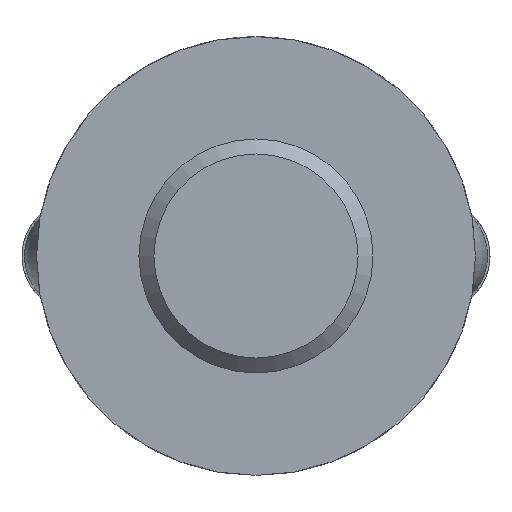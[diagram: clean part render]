
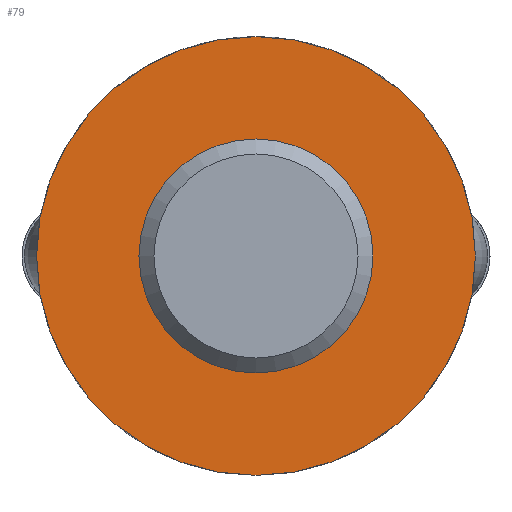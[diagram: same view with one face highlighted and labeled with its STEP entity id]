
A CAD part, front view. The second image highlights one B-rep face of the part: STEP entity #79.
In plain terms, the highlighted planar face has unit normal (0, -1, 0).
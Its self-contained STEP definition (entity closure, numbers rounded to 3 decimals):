
#79 = ADVANCED_FACE( '', ( #115, #116 ), #117, .F. );
#115 = FACE_BOUND( '', #186, .T. );
#116 = FACE_OUTER_BOUND( '', #187, .T. );
#117 = PLANE( '', #188 );
#186 = EDGE_LOOP( '', ( #276 ) );
#187 = EDGE_LOOP( '', ( #277 ) );
#188 = AXIS2_PLACEMENT_3D( '', #278, #279, #280 );
#276 = ORIENTED_EDGE( '', *, *, #464, .T. );
#277 = ORIENTED_EDGE( '', *, *, #465, .T. );
#278 = CARTESIAN_POINT( '', ( 45., 0., 0. ) );
#279 = DIRECTION( '', ( 0., 1., 0. ) );
#280 = DIRECTION( '', ( 0., 0., 1. ) );
#464 = EDGE_CURVE( '', #539, #539, #540, .T. );
#465 = EDGE_CURVE( '', #541, #541, #542, .T. );
#539 = VERTEX_POINT( '', #823 );
#540 = CIRCLE( '', #824, 24. );
#541 = VERTEX_POINT( '', #825 );
#542 = CIRCLE( '', #826, 45. );
#823 = CARTESIAN_POINT( '', ( 0., 0., 24. ) );
#824 = AXIS2_PLACEMENT_3D( '', #1145, #1146, #1147 );
#825 = CARTESIAN_POINT( '', ( 0., 0., -45. ) );
#826 = AXIS2_PLACEMENT_3D( '', #1148, #1149, #1150 );
#1145 = CARTESIAN_POINT( '', ( 0., 0., 0. ) );
#1146 = DIRECTION( '', ( 0., 1., 0. ) );
#1147 = DIRECTION( '', ( 0., 0., 1. ) );
#1148 = CARTESIAN_POINT( '', ( 0., 0., 0. ) );
#1149 = DIRECTION( '', ( 0., -1., 0. ) );
#1150 = DIRECTION( '', ( 0., 0., -1. ) );
